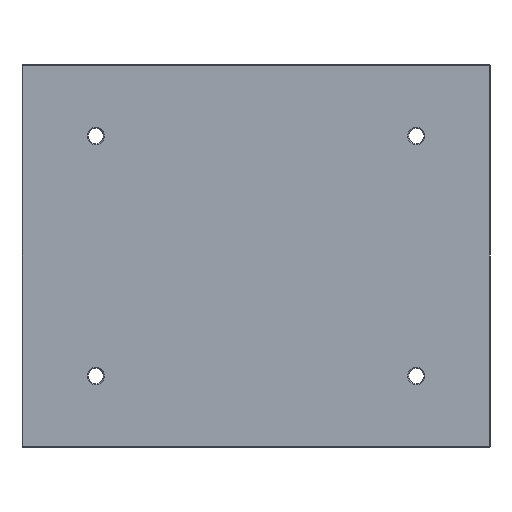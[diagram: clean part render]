
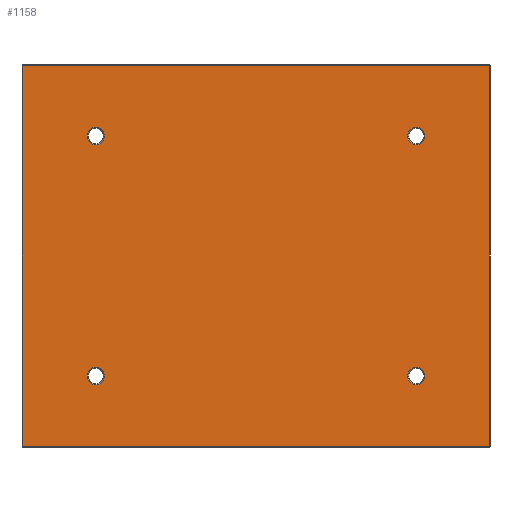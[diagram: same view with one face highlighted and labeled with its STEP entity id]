
A CAD part, front view. The second image highlights one B-rep face of the part: STEP entity #1158.
In plain terms, the highlighted planar face has unit normal (0, -1, 0).
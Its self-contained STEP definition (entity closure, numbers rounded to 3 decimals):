
#1 = EDGE_CURVE ( 'NONE', #142, #288, #1662, .T. ) ;
#44 = EDGE_CURVE ( 'NONE', #177, #640, #1586, .T. ) ;
#51 = CARTESIAN_POINT ( 'NONE',  ( -272., 0., -222. ) ) ;
#72 = DIRECTION ( 'NONE',  ( 0., 0., 1. ) ) ;
#100 = CIRCLE ( 'NONE', #1290, 10. ) ;
#105 = DIRECTION ( 'NONE',  ( 1., 0., 0. ) ) ;
#134 = DIRECTION ( 'NONE',  ( 0., 0., -1. ) ) ;
#142 = VERTEX_POINT ( 'NONE', #831 ) ;
#172 = EDGE_CURVE ( 'NONE', #533, #1638, #1551, .T. ) ;
#177 = VERTEX_POINT ( 'NONE', #304 ) ;
#184 = AXIS2_PLACEMENT_3D ( 'NONE', #1348, #1001, #1253 ) ;
#188 = CIRCLE ( 'NONE', #493, 10. ) ;
#189 = DIRECTION ( 'NONE',  ( 0., 0., 1. ) ) ;
#194 = CARTESIAN_POINT ( 'NONE',  ( -187., 0., -140. ) ) ;
#203 = VERTEX_POINT ( 'NONE', #973 ) ;
#223 = DIRECTION ( 'NONE',  ( 0., 1., 0. ) ) ;
#231 = DIRECTION ( 'NONE',  ( 0., 0., 1. ) ) ;
#266 = VERTEX_POINT ( 'NONE', #464 ) ;
#267 = DIRECTION ( 'NONE',  ( 0., 1., 0. ) ) ;
#268 = ORIENTED_EDGE ( 'NONE', *, *, #1, .T. ) ;
#277 = FACE_BOUND ( 'NONE', #698, .T. ) ;
#278 = LINE ( 'NONE', #758, #980 ) ;
#288 = VERTEX_POINT ( 'NONE', #1451 ) ;
#304 = CARTESIAN_POINT ( 'NONE',  ( -187., 0., -130. ) ) ;
#316 = FACE_BOUND ( 'NONE', #1578, .T. ) ;
#322 = AXIS2_PLACEMENT_3D ( 'NONE', #1055, #267, #1179 ) ;
#342 = CARTESIAN_POINT ( 'NONE',  ( -187., 0., -140. ) ) ;
#349 = CARTESIAN_POINT ( 'NONE',  ( 272., 0., 222. ) ) ;
#365 = CARTESIAN_POINT ( 'NONE',  ( 187., 0., 140. ) ) ;
#366 = CARTESIAN_POINT ( 'NONE',  ( -272., 0., 222. ) ) ;
#369 = AXIS2_PLACEMENT_3D ( 'NONE', #194, #989, #72 ) ;
#406 = AXIS2_PLACEMENT_3D ( 'NONE', #1200, #1579, #1078 ) ;
#422 = PLANE ( 'NONE',  #406 ) ;
#425 = DIRECTION ( 'NONE',  ( 0., 1., 0. ) ) ;
#431 = ORIENTED_EDGE ( 'NONE', *, *, #1224, .T. ) ;
#463 = CIRCLE ( 'NONE', #1347, 10. ) ;
#464 = CARTESIAN_POINT ( 'NONE',  ( 187., 0., 150. ) ) ;
#480 = CIRCLE ( 'NONE', #988, 10. ) ;
#493 = AXIS2_PLACEMENT_3D ( 'NONE', #805, #1567, #677 ) ;
#513 = EDGE_LOOP ( 'NONE', ( #1562, #1027 ) ) ;
#530 = CARTESIAN_POINT ( 'NONE',  ( -272., 0., 0. ) ) ;
#533 = VERTEX_POINT ( 'NONE', #1428 ) ;
#552 = EDGE_CURVE ( 'NONE', #1162, #1429, #694, .T. ) ;
#578 = DIRECTION ( 'NONE',  ( 0., 0., 1. ) ) ;
#588 = EDGE_CURVE ( 'NONE', #1638, #1387, #1549, .T. ) ;
#591 = DIRECTION ( 'NONE',  ( 0., 0., 1. ) ) ;
#623 = EDGE_CURVE ( 'NONE', #203, #266, #100, .T. ) ;
#632 = FACE_OUTER_BOUND ( 'NONE', #1104, .T. ) ;
#640 = VERTEX_POINT ( 'NONE', #1582 ) ;
#660 = ORIENTED_EDGE ( 'NONE', *, *, #726, .T. ) ;
#672 = DIRECTION ( 'NONE',  ( -1., 0., 0. ) ) ;
#677 = DIRECTION ( 'NONE',  ( 0., 0., 1. ) ) ;
#683 = ORIENTED_EDGE ( 'NONE', *, *, #588, .T. ) ;
#694 = CIRCLE ( 'NONE', #322, 10. ) ;
#698 = EDGE_LOOP ( 'NONE', ( #1599, #765 ) ) ;
#726 = EDGE_CURVE ( 'NONE', #1108, #533, #278, .T. ) ;
#758 = CARTESIAN_POINT ( 'NONE',  ( 0., 0., -222. ) ) ;
#762 = CARTESIAN_POINT ( 'NONE',  ( 187., 0., -140. ) ) ;
#765 = ORIENTED_EDGE ( 'NONE', *, *, #1171, .T. ) ;
#805 = CARTESIAN_POINT ( 'NONE',  ( -187., 0., 140. ) ) ;
#808 = CARTESIAN_POINT ( 'NONE',  ( -187., 0., 130. ) ) ;
#812 = DIRECTION ( 'NONE',  ( 0., 1., 0. ) ) ;
#831 = CARTESIAN_POINT ( 'NONE',  ( 187., 0., -150. ) ) ;
#832 = EDGE_CURVE ( 'NONE', #266, #203, #463, .T. ) ;
#869 = CIRCLE ( 'NONE', #1243, 10. ) ;
#968 = ORIENTED_EDGE ( 'NONE', *, *, #623, .T. ) ;
#969 = ORIENTED_EDGE ( 'NONE', *, *, #1351, .T. ) ;
#973 = CARTESIAN_POINT ( 'NONE',  ( 187., 0., 130. ) ) ;
#978 = FACE_BOUND ( 'NONE', #513, .T. ) ;
#980 = VECTOR ( 'NONE', #105, 1000. ) ;
#988 = AXIS2_PLACEMENT_3D ( 'NONE', #762, #812, #591 ) ;
#989 = DIRECTION ( 'NONE',  ( 0., 1., 0. ) ) ;
#1001 = DIRECTION ( 'NONE',  ( 0., 1., 0. ) ) ;
#1027 = ORIENTED_EDGE ( 'NONE', *, *, #44, .T. ) ;
#1055 = CARTESIAN_POINT ( 'NONE',  ( -187., 0., 140. ) ) ;
#1078 = DIRECTION ( 'NONE',  ( 0., 0., 1. ) ) ;
#1089 = EDGE_LOOP ( 'NONE', ( #268, #969 ) ) ;
#1090 = ORIENTED_EDGE ( 'NONE', *, *, #832, .T. ) ;
#1104 = EDGE_LOOP ( 'NONE', ( #1658, #683, #431, #660 ) ) ;
#1108 = VERTEX_POINT ( 'NONE', #51 ) ;
#1115 = VECTOR ( 'NONE', #134, 1000. ) ;
#1144 = DIRECTION ( 'NONE',  ( 0., 1., 0. ) ) ;
#1158 = ADVANCED_FACE ( 'NONE', ( #1607, #316, #277, #978, #632 ), #422, .F. ) ;
#1162 = VERTEX_POINT ( 'NONE', #808 ) ;
#1171 = EDGE_CURVE ( 'NONE', #1429, #1162, #188, .T. ) ;
#1179 = DIRECTION ( 'NONE',  ( 0., 0., 1. ) ) ;
#1200 = CARTESIAN_POINT ( 'NONE',  ( 0., 0., 0. ) ) ;
#1201 = CARTESIAN_POINT ( 'NONE',  ( 187., 0., 140. ) ) ;
#1218 = VECTOR ( 'NONE', #578, 1000. ) ;
#1224 = EDGE_CURVE ( 'NONE', #1387, #1108, #1450, .T. ) ;
#1243 = AXIS2_PLACEMENT_3D ( 'NONE', #342, #223, #189 ) ;
#1253 = DIRECTION ( 'NONE',  ( 0., 0., 1. ) ) ;
#1261 = VECTOR ( 'NONE', #672, 1000. ) ;
#1290 = AXIS2_PLACEMENT_3D ( 'NONE', #1201, #425, #1340 ) ;
#1306 = CARTESIAN_POINT ( 'NONE',  ( -187., 0., 150. ) ) ;
#1340 = DIRECTION ( 'NONE',  ( 0., 0., 1. ) ) ;
#1347 = AXIS2_PLACEMENT_3D ( 'NONE', #365, #1144, #231 ) ;
#1348 = CARTESIAN_POINT ( 'NONE',  ( 187., 0., -140. ) ) ;
#1351 = EDGE_CURVE ( 'NONE', #288, #142, #480, .T. ) ;
#1377 = EDGE_CURVE ( 'NONE', #640, #177, #869, .T. ) ;
#1387 = VERTEX_POINT ( 'NONE', #366 ) ;
#1428 = CARTESIAN_POINT ( 'NONE',  ( 272., 0., -222. ) ) ;
#1429 = VERTEX_POINT ( 'NONE', #1306 ) ;
#1450 = LINE ( 'NONE', #530, #1115 ) ;
#1451 = CARTESIAN_POINT ( 'NONE',  ( 187., 0., -130. ) ) ;
#1549 = LINE ( 'NONE', #1564, #1261 ) ;
#1551 = LINE ( 'NONE', #1600, #1218 ) ;
#1562 = ORIENTED_EDGE ( 'NONE', *, *, #1377, .T. ) ;
#1564 = CARTESIAN_POINT ( 'NONE',  ( 0., 0., 222. ) ) ;
#1567 = DIRECTION ( 'NONE',  ( 0., 1., 0. ) ) ;
#1578 = EDGE_LOOP ( 'NONE', ( #968, #1090 ) ) ;
#1579 = DIRECTION ( 'NONE',  ( 0., 1., 0. ) ) ;
#1582 = CARTESIAN_POINT ( 'NONE',  ( -187., 0., -150. ) ) ;
#1586 = CIRCLE ( 'NONE', #369, 10. ) ;
#1599 = ORIENTED_EDGE ( 'NONE', *, *, #552, .T. ) ;
#1600 = CARTESIAN_POINT ( 'NONE',  ( 272., 0., 0. ) ) ;
#1607 = FACE_BOUND ( 'NONE', #1089, .T. ) ;
#1638 = VERTEX_POINT ( 'NONE', #349 ) ;
#1658 = ORIENTED_EDGE ( 'NONE', *, *, #172, .T. ) ;
#1662 = CIRCLE ( 'NONE', #184, 10. ) ;
